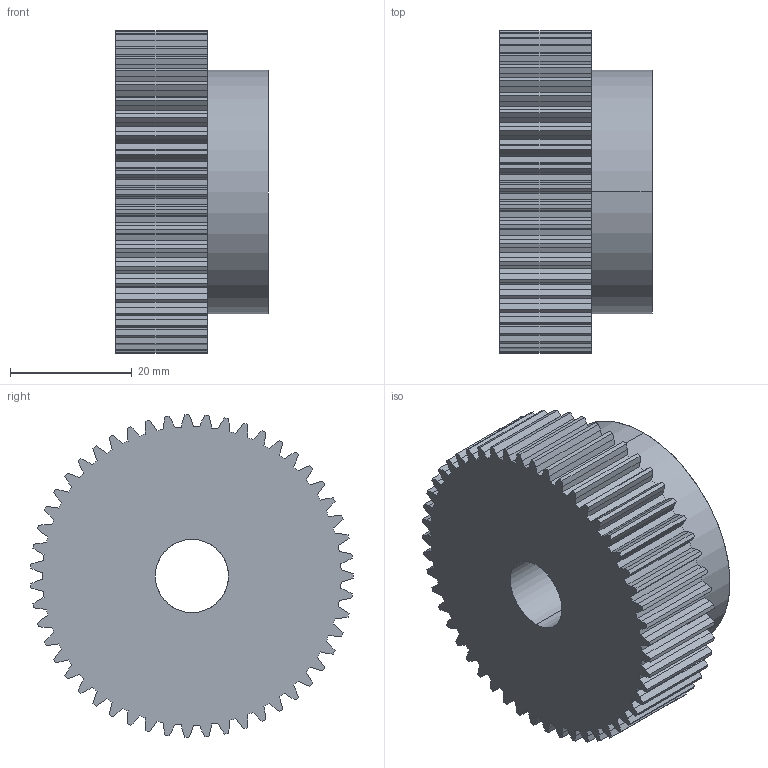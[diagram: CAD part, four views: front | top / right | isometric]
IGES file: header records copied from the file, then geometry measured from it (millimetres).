
Start section: SolidWorks IGES file using analytic representation for surfaces
Global section: file name: C:\Users\Honza\Desktop\Matis (Hotove)\Èelní ozubená kola\PM\MODUL 1\PM 26051.IGS; native system: SolidWorks 2010; preprocessor: SolidWorks 2010; author: Honza; date: 130923.152239; units: millimetre
Bounding box: 25 x 52.97 x 52.99 mm (x, y, z)
Surface area: 10562.1 mm2 (no closed solid volume)
Topology: 0 solids, 0 shells, 313 faces, 2044 edges, 2044 vertices
Faces by surface type: bspline 207, revolution 106
